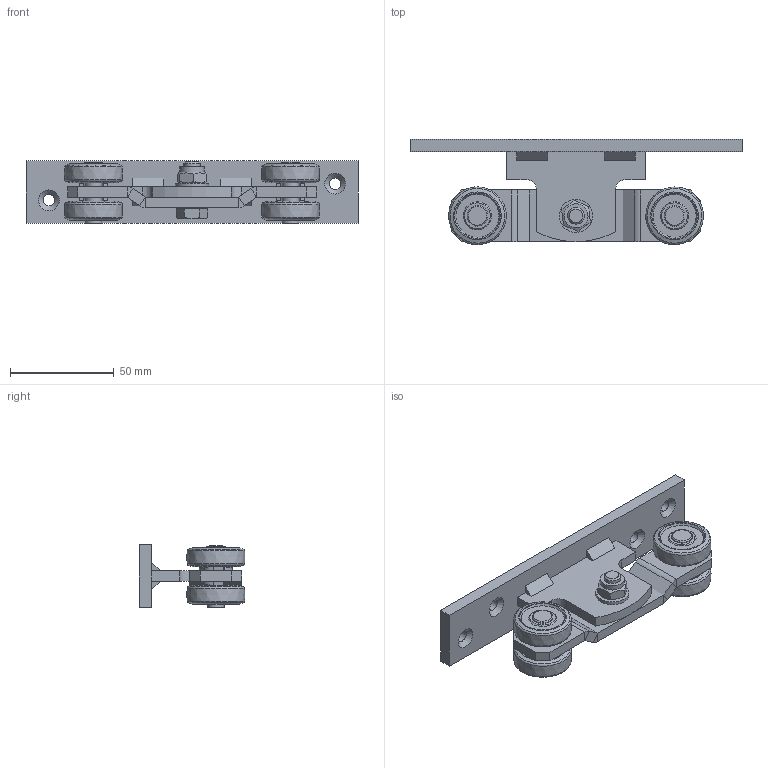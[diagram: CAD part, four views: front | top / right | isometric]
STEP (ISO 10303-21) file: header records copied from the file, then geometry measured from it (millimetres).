
FILE_DESCRIPTION(/* description */ ('Doppelrolle mit Flansch Nr.1'),/* implementation_level */ '2;1');
FILE_NAME(/* name */ 'Q:\sge-ma\Produktmanagement-STB\STB\Workspace\TraceParts\Doppelrolle mit Flanschpendel\010336992.stp',/* time_stamp */ '2018-02-22T15:41:57+01:00',/* author */ ('avschreier'),/* organization */ (''),/* preprocessor_version */ 'ST-DEVELOPER v16.1',/* originating_system */ 'Autodesk Inventor 2016',/* authorisation */ '');
FILE_SCHEMA (('CONFIG_CONTROL_DESIGN'));
Length unit declared in the file: millimetre
Products named in the file (11): 010336992_Schweißnähte; 000302048; 000302021; 337000120; 336290010; 000303235; 000304011; DIN_EN_ISO_7090-8,4_en; DIN_EN_ISO_4017-M8x22_en; DIN_EN_ISO_7040-M8_en; 010336992
Assembly tree (17 placements, depth 2):
  010336992
    010336992_Schweißnähte
    000302048
    000302021
    337000120
    336290010  x4
    000303235  x4
    000304011  x2
    DIN_EN_ISO_7090-8,4_en
    DIN_EN_ISO_4017-M8x22_en
    DIN_EN_ISO_7040-M8_en
Bounding box: 160 x 51 x 30 mm (x, y, z)
Volume: 75825 mm3; surface area: 38523.1 mm2
Topology: 20 solids, 20 shells, 375 faces, 857 edges, 542 vertices
Faces by surface type: plane 235, cylinder 52, cone 50, bspline 28, torus 10
Full cylindrical faces by diameter (mm): 5.5 x4, 6.647 x1, 7.323 x1, 8 x7, 8.1 x1, 8.3 x1, 8.4 x1, 10 x2, 11.4 x1, 11.6 x1, 16 x1
Entity records: 6272 total; most frequent: CARTESIAN_POINT 1733, DIRECTION 926, ORIENTED_EDGE 802, EDGE_CURVE 401, AXIS2_PLACEMENT_3D 341, VERTEX_POINT 272, EDGE_LOOP 267, LINE 244
